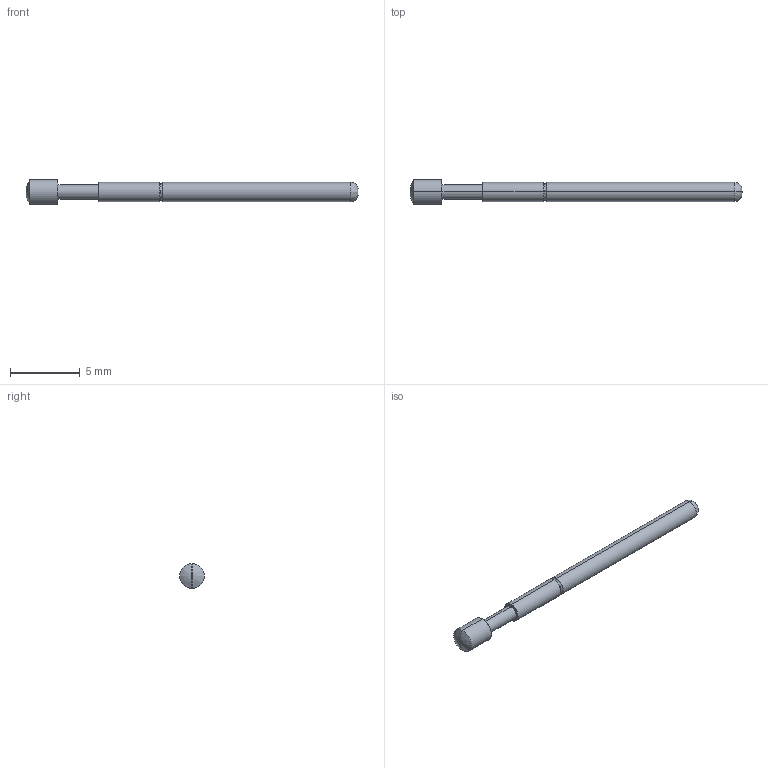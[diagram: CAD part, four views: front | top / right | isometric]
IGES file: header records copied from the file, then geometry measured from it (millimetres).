
Start section: SolidWorks IGES file using analytic representation for surfaces
Global section: file name: O:\PYLON\IGES FILES\P2664\P2664G-2R1S.IGS; native system: SolidWorks 2015; preprocessor: SolidWorks 2015; author: kgolden; date: 171019.130804; units: inch
Bounding box: 23.75 x 1.78 x 1.78 mm (x, y, z)
Surface area: 110.2 mm2 (no closed solid volume)
Topology: 0 solids, 0 shells, 22 faces, 184 edges, 184 vertices
Faces by surface type: bspline 12, revolution 10
